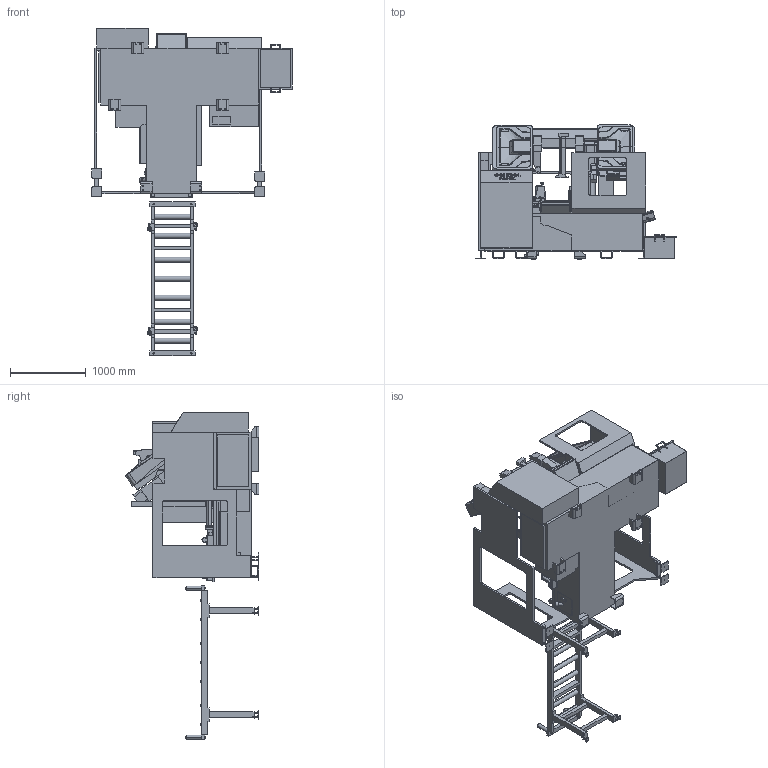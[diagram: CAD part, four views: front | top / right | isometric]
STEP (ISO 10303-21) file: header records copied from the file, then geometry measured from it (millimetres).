
FILE_DESCRIPTION (( 'STEP AP203' ), '1' );
FILE_NAME ('HAB3232_6_2026.STEP', '2026-06-04T16:58:49', ( '' ), ( '' ), 'SwSTEP 2.0', 'SolidWorks 2025', '' );
FILE_SCHEMA (( 'CONFIG_CONTROL_DESIGN' ));
Length unit declared in the file: millimetre
Products named in the file (9): HAB3232_6_2026; HAB3232 - Roller Table; HAB3232 - Base And Control; HAB3232 - Part Vise; HAB3232 - CE Fence; HAB3232 - Chip Bin; HAB3232 - Leveling Pads; HAB3232 - Material Feeding Vise; HAB3232 - Saw Head
Assembly tree (8 placements, depth 2):
  HAB3232_6_2026
    HAB3232 - Leveling Pads
    HAB3232 - Base And Control
    HAB3232 - Material Feeding Vise
    HAB3232 - Part Vise
    HAB3232 - Saw Head
    HAB3232 - CE Fence
    HAB3232 - Chip Bin
    HAB3232 - Roller Table
Bounding box: 2638 x 1761.8 x 4311.38 mm (x, y, z)
Volume: 1632517966.3 mm3; surface area: 40416582.6 mm2
Topology: 19 solids, 19 shells, 4679 faces, 12348 edges, 7626 vertices
Faces by surface type: plane 2068, cylinder 1473, bspline 645, torus 232, cone 158, sphere 103
Entity records: 280489 total; most frequent: CARTESIAN_POINT 169258, ORIENTED_EDGE 24402, DIRECTION 21243, EDGE_CURVE 12201, VERTEX_POINT 7624, AXIS2_PLACEMENT_3D 7125, LINE 6993, VECTOR 6993
